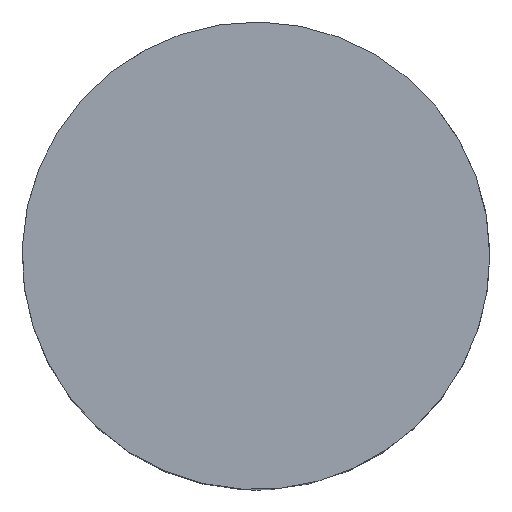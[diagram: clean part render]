
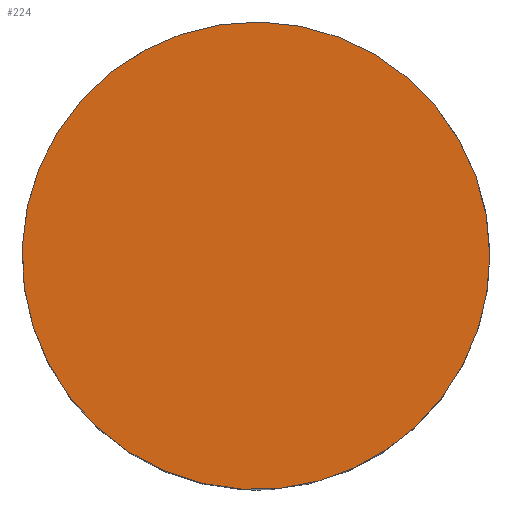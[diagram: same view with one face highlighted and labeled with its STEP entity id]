
A CAD part, top view. The second image highlights one B-rep face of the part: STEP entity #224.
In plain terms, the highlighted planar face has unit normal (0, 0, 1).
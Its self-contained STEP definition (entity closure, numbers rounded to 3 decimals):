
#27=PLANE('',#270);
#61=FACE_OUTER_BOUND('',#88,.T.);
#88=EDGE_LOOP('',(#188));
#115=CIRCLE('',#269,17.5);
#134=VERTEX_POINT('',#408);
#155=EDGE_CURVE('',#134,#134,#115,.T.);
#188=ORIENTED_EDGE('',*,*,#155,.T.);
#224=ADVANCED_FACE('',(#61),#27,.T.);
#269=AXIS2_PLACEMENT_3D('',#409,#346,#347);
#270=AXIS2_PLACEMENT_3D('',#410,#348,#349);
#346=DIRECTION('center_axis',(0.,0.,1.));
#347=DIRECTION('ref_axis',(-1.,0.,0.));
#348=DIRECTION('center_axis',(0.,0.,1.));
#349=DIRECTION('ref_axis',(1.,0.,0.));
#408=CARTESIAN_POINT('',(17.5,0.,24.));
#409=CARTESIAN_POINT('Origin',(0.,0.,24.));
#410=CARTESIAN_POINT('Origin',(0.,0.,
24.));
